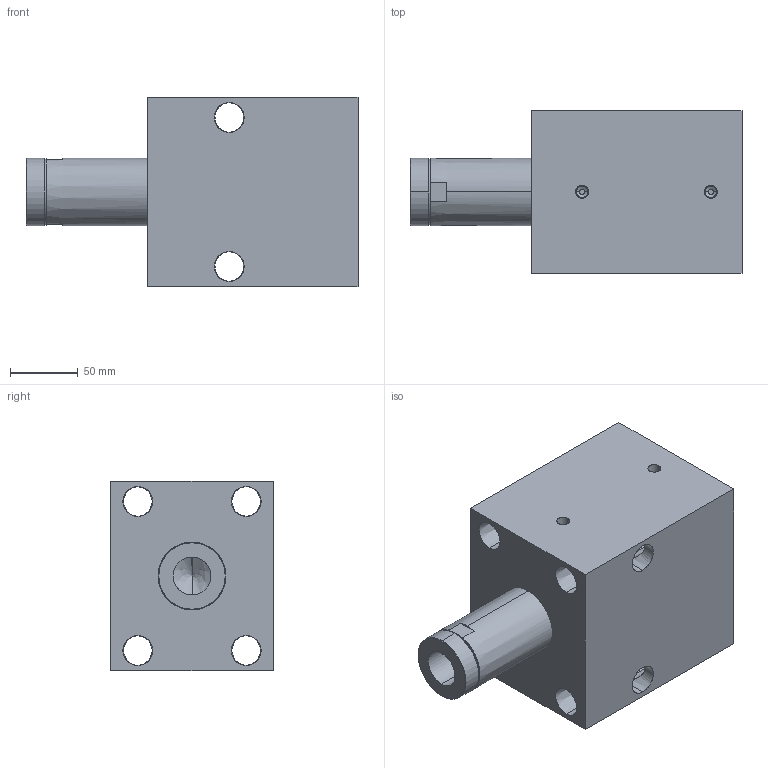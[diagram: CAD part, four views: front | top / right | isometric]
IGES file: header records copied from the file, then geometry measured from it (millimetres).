
Start section: SolidWorks IGES file using analytic representation for surfaces
Global section: file name: C:\Documents and Settings\rajib\Desktop\Rajib\BLOCK CYLINDER HYDRAULIC\0801-0806\IGES 0801-0808\0806.IGS; native system: SolidWorks 2007; preprocessor: SolidWorks 2007; author: rajib; date: 110121.164517; units: millimetre
Bounding box: 245 x 120 x 140 mm (x, y, z)
Surface area: 190745.1 mm2 (no closed solid volume)
Topology: 0 solids, 0 shells, 80 faces, 2016 edges, 2014 vertices
Faces by surface type: revolution 58, bspline 22
